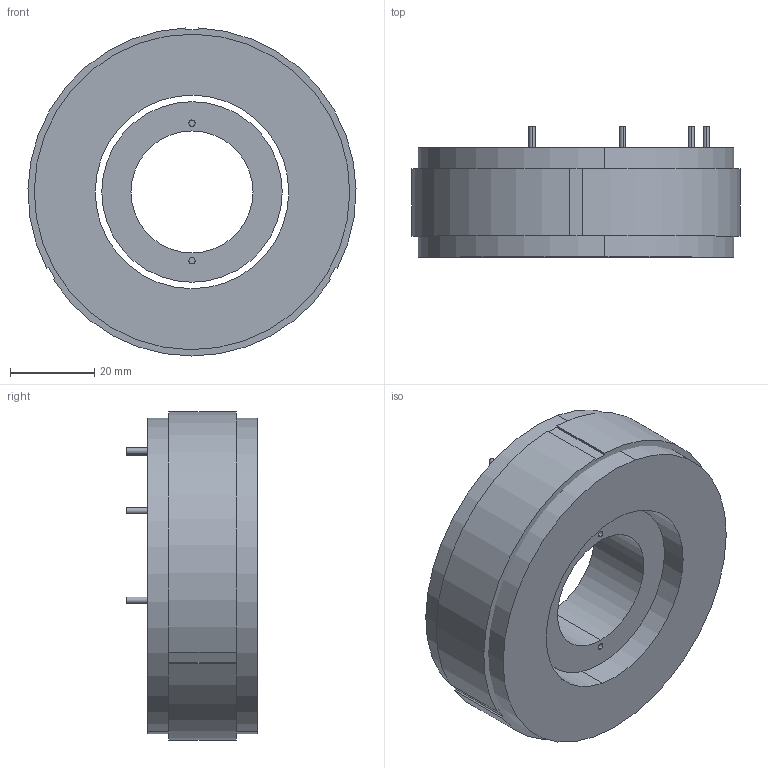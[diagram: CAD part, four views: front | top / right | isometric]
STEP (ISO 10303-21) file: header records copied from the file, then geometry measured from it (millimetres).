
FILE_DESCRIPTION (( 'STEP AP203' ), '1' );
FILE_NAME ('TM78-25 KIT 3D.STEP', '2021-05-08T01:15:40', ( '' ), ( '' ), 'SwSTEP 2.0', 'SolidWorks 2021', '' );
FILE_SCHEMA (( 'CONFIG_CONTROL_DESIGN' ));
Length unit declared in the file: millimetre
Products named in the file (1): TM78-25 KIT 3D
Bounding box: 77.99 x 31 x 77.97 mm (x, y, z)
Volume: 95829.3 mm3; surface area: 29904.2 mm2
Topology: 3 solids, 3 shells, 111 faces, 291 edges, 194 vertices
Faces by surface type: cylinder 70, plane 41
Entity records: 3570 total; most frequent: DIRECTION 655, CARTESIAN_POINT 597, ORIENTED_EDGE 582, EDGE_CURVE 291, AXIS2_PLACEMENT_3D 252, VERTEX_POINT 194, LINE 151, VECTOR 151
